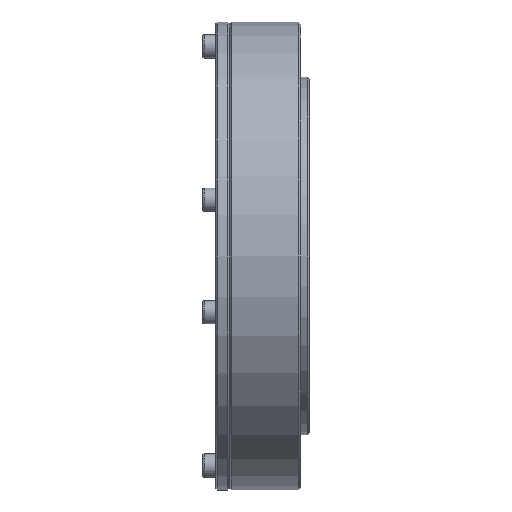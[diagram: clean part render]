
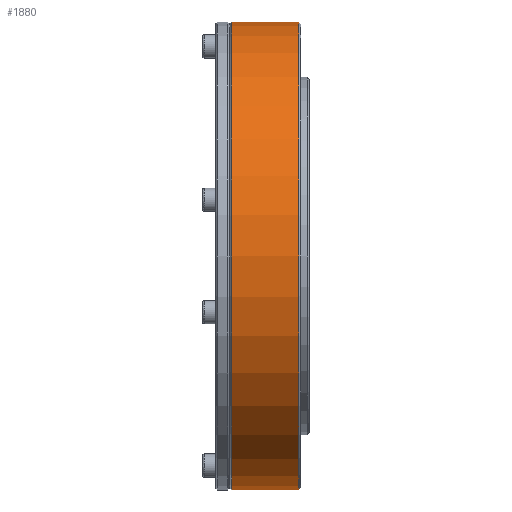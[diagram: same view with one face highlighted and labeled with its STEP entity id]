
A CAD part, front view. The second image highlights one B-rep face of the part: STEP entity #1880.
In plain terms, the highlighted cylindrical face has radius 55 mm (diameter 110 mm), a full revolution.
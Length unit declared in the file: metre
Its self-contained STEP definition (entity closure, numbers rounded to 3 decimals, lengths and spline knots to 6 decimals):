
#621 = EDGE_CURVE ( 'NONE', #6213, #6213, #7549, .T. ) ;
#977 = CARTESIAN_POINT ( 'NONE',  ( -0.0178, 0., 0. ) ) ;
#1880 = ADVANCED_FACE ( 'NONE', ( #2729, #9900 ), #17041, .T. ) ;
#2158 = DIRECTION ( 'NONE',  ( -1., 0., 0. ) ) ;
#2729 = FACE_OUTER_BOUND ( 'NONE', #15783, .T. ) ;
#3449 = AXIS2_PLACEMENT_3D ( 'NONE', #6354, #15536, #9912 ) ;
#4094 = EDGE_CURVE ( 'NONE', #16650, #16650, #14383, .T. ) ;
#4913 = AXIS2_PLACEMENT_3D ( 'NONE', #977, #15275, #22442 ) ;
#6213 = VERTEX_POINT ( 'NONE', #22428 ) ;
#6354 = CARTESIAN_POINT ( 'NONE',  ( -0.0173, 0., 0. ) ) ;
#7234 = AXIS2_PLACEMENT_3D ( 'NONE', #18225, #2158, #21980 ) ;
#7549 = CIRCLE ( 'NONE', #3449, 0.055 ) ;
#7715 = CARTESIAN_POINT ( 'NONE',  ( -0.0016, 0., 0.055 ) ) ;
#9900 = FACE_OUTER_BOUND ( 'NONE', #19294, .T. ) ;
#9912 = DIRECTION ( 'NONE',  ( 0., 0., 1. ) ) ;
#10612 = ORIENTED_EDGE ( 'NONE', *, *, #621, .T. ) ;
#14383 = CIRCLE ( 'NONE', #7234, 0.055 ) ;
#15275 = DIRECTION ( 'NONE',  ( -1., 0., 0. ) ) ;
#15536 = DIRECTION ( 'NONE',  ( 1., 0., 0. ) ) ;
#15783 = EDGE_LOOP ( 'NONE', ( #10612 ) ) ;
#16650 = VERTEX_POINT ( 'NONE', #7715 ) ;
#17041 = CYLINDRICAL_SURFACE ( 'NONE', #4913, 0.055 ) ;
#17137 = ORIENTED_EDGE ( 'NONE', *, *, #4094, .T. ) ;
#18225 = CARTESIAN_POINT ( 'NONE',  ( -0.0016, 0., 0. ) ) ;
#19294 = EDGE_LOOP ( 'NONE', ( #17137 ) ) ;
#21980 = DIRECTION ( 'NONE',  ( 0., 0., 1. ) ) ;
#22428 = CARTESIAN_POINT ( 'NONE',  ( -0.0173, 0., 0.055 ) ) ;
#22442 = DIRECTION ( 'NONE',  ( 0., 0., 1. ) ) ;
